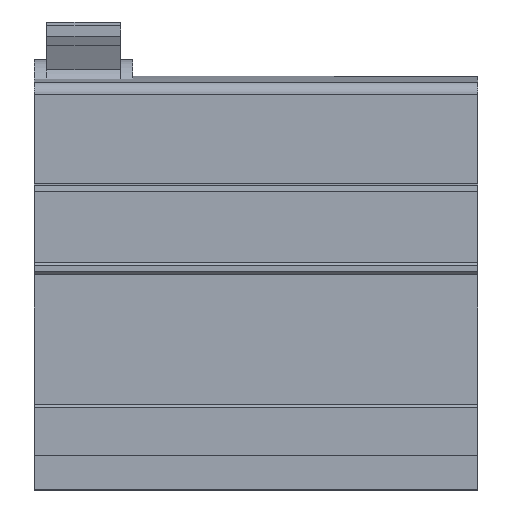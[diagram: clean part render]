
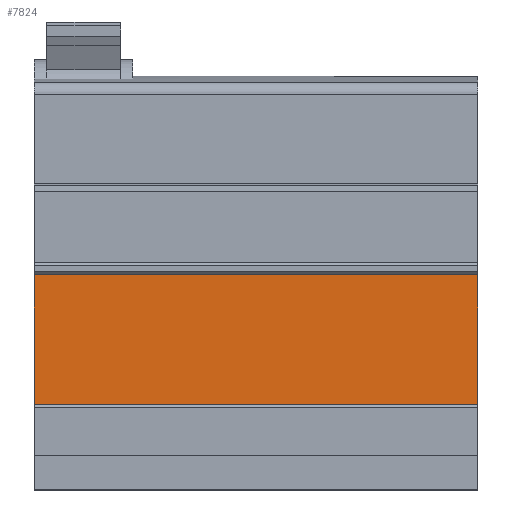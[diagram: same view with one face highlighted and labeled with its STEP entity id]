
A CAD part, front view. The second image highlights one B-rep face of the part: STEP entity #7824.
In plain terms, the highlighted planar face has unit normal (0, -1, 0).
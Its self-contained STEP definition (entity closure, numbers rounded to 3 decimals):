
#350=PLANE('',#8433);
#893=FACE_OUTER_BOUND('',#1428,.T.);
#1428=EDGE_LOOP('',(#6483,#6484,#6485,#6486));
#1731=LINE('',#10898,#2506);
#1992=LINE('',#13345,#2767);
#2036=LINE('',#13437,#2811);
#2037=LINE('',#13439,#2812);
#2506=VECTOR('',#8846,10.);
#2767=VECTOR('',#9727,10.);
#2811=VECTOR('',#9789,10.);
#2812=VECTOR('',#9792,10.);
#3512=VERTEX_POINT('',#10895);
#3513=VERTEX_POINT('',#10897);
#3868=VERTEX_POINT('',#13342);
#3869=VERTEX_POINT('',#13344);
#4272=EDGE_CURVE('',#3512,#3513,#1731,.T.);
#4791=EDGE_CURVE('',#3869,#3868,#1992,.T.);
#4838=EDGE_CURVE('',#3868,#3513,#2036,.T.);
#4839=EDGE_CURVE('',#3869,#3512,#2037,.T.);
#6483=ORIENTED_EDGE('',*,*,#4791,.T.);
#6484=ORIENTED_EDGE('',*,*,#4838,.T.);
#6485=ORIENTED_EDGE('',*,*,#4272,.F.);
#6486=ORIENTED_EDGE('',*,*,#4839,.F.);
#7824=ADVANCED_FACE('',(#893),#350,.T.);
#8433=AXIS2_PLACEMENT_3D('',#13438,#9790,#9791);
#8846=DIRECTION('',(0.,0.,-1.));
#9727=DIRECTION('',(0.,0.,-1.));
#9789=DIRECTION('',(1.,0.,0.));
#9790=DIRECTION('center_axis',(0.,-1.,0.));
#9791=DIRECTION('ref_axis',(0.,0.,-1.));
#9792=DIRECTION('',(1.,0.,0.));
#10895=CARTESIAN_POINT('',(72.,-45.241,5.4));
#10897=CARTESIAN_POINT('',(72.,-45.241,-15.712));
#10898=CARTESIAN_POINT('',(72.,-45.241,5.4));
#13342=CARTESIAN_POINT('',(0.,-45.241,-15.712));
#13344=CARTESIAN_POINT('',(0.,-45.241,5.4));
#13345=CARTESIAN_POINT('',(0.,-45.241,5.4));
#13437=CARTESIAN_POINT('',(0.,-45.241,-15.712));
#13438=CARTESIAN_POINT('Origin',(0.,-45.241,5.4));
#13439=CARTESIAN_POINT('',(0.,-45.241,5.4));
